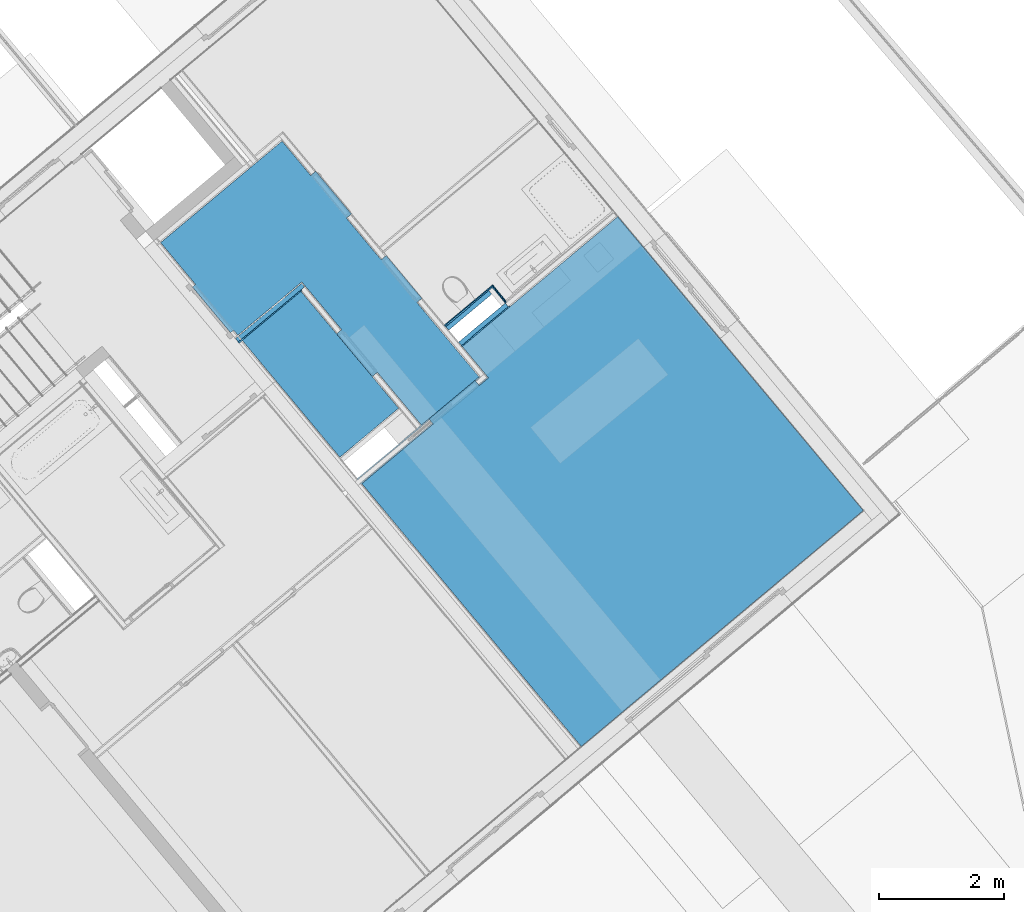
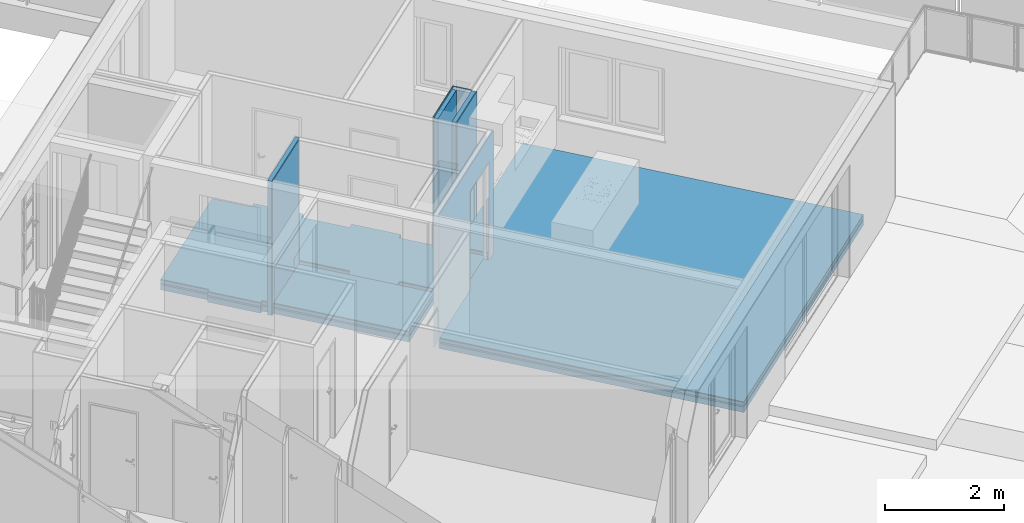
# One storey, part 41 of 67: 21 building element parts, 1 opening, 8 elements without a shape of their own, plus 2 elements that do not belong to this part.
"""IFC4 building model written with IfcOpenShell, lengths in metres."""

from ifc_helpers import new_model, entity, si_unit, converted_unit, derived_unit, direction, frame, origin_with_axes, place, context, subcontext, project, spatial, polygons, material, type_object, element, aggregate, save


model = new_model("IFC4")

# Units and contexts
model_context = context("Model", 3, precision=1e-05, world=origin_with_axes(), true_north=direction((0.0, 1.0)))
body_context = subcontext(model_context, "Body", "Model", "MODEL_VIEW")
ifc_project = project(units=[si_unit("LENGTHUNIT", "METRE"), si_unit("AREAUNIT", "SQUARE_METRE"), si_unit("VOLUMEUNIT", "CUBIC_METRE"), converted_unit("PLANEANGLEUNIT", "DEGREE", entity("IfcPlaneAngleMeasure", 0.0174532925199), si_unit("PLANEANGLEUNIT", "RADIAN"), dimensions=[0, 0, 0, 0, 0, 0, 0]), converted_unit("TIMEUNIT", "Year", entity("IfcTimeMeasure", 31556926.0), si_unit("TIMEUNIT", "SECOND"), dimensions=[0, 0, 1, 0, 0, 0, 0]), si_unit("MASSUNIT", "GRAM", prefix="KILO"), si_unit("THERMODYNAMICTEMPERATUREUNIT", "DEGREE_CELSIUS"), si_unit("LUMINOUSINTENSITYUNIT", "LUMEN"), si_unit("ENERGYUNIT", "JOULE", prefix="MEGA"), derived_unit("THERMALCONDUCTANCEUNIT", [(si_unit("POWERUNIT", "WATT"), 1), (si_unit("LENGTHUNIT", "METRE"), -1), (si_unit("THERMODYNAMICTEMPERATUREUNIT", "KELVIN"), -1)]), derived_unit("SPECIFICHEATCAPACITYUNIT", [(si_unit("ENERGYUNIT", "JOULE"), 1), (si_unit("MASSUNIT", "GRAM", prefix="KILO"), -1), (si_unit("THERMODYNAMICTEMPERATUREUNIT", "KELVIN"), -1)]), derived_unit("MASSDENSITYUNIT", [(si_unit("MASSUNIT", "GRAM", prefix="KILO"), 1), (si_unit("VOLUMEUNIT", "CUBIC_METRE"), -1)])], contexts=[model_context])

# Site, building, storey
site_placement = place(None, frame((-0.00153261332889, -0.00661245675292, 0.0), z_axis=(0.0, 0.0, 1.0), x_axis=(1.0, 0.0, 0.0)))
site = spatial("IfcSite", under=ifc_project, at=site_placement, Name="Site", CompositionType="ELEMENT")
building_placement = place(site_placement, origin_with_axes())
building = spatial("IfcBuilding", under=site, at=building_placement, Name="Building", CompositionType="ELEMENT")
storey_placement = place(building_placement, frame((0.0, 0.0, -0.22), z_axis=(0.0, 0.0, 1.0), x_axis=(1.0, 0.0, 0.0)))
storey = spatial("IfcBuildingStorey", under=building, at=storey_placement, Name="EG", CompositionType="ELEMENT", Elevation=-0.22)

# Wall, building element parts
wall_type_1 = type_object("IfcWallType", Name="LB 9,0 cm einfache Vorsatzschale  90", PredefinedType="NOTDEFINED")
wall_1_placement = place(storey_placement, frame((6.35108165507, 23.0169179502, 0.0), z_axis=(0.0, 0.0, 1.0), x_axis=(0.767365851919, 0.641209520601, 0.0)))
wall_1 = element("IfcWall", 1, at=wall_1_placement, inside=storey, type_object=wall_type_1, Name="Wand-006", PredefinedType="NOTDEFINED")
ifc_material_1 = material(Name="Mineralwolle weich")
building_element_part_1_placement = place(wall_1_placement, origin_with_axes())
building_element_part_1 = element("IfcBuildingElementPart", 2, at=building_element_part_1_placement, material=ifc_material_1, Name="Mineralwolle weich", PredefinedType="NOTDEFINED", context=body_context, shape_type="Tessellation", body=[
    polygons([(0.971380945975, 0.0, 2.76), (0.971201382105, -0.075, 2.76), (0.971201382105, -0.075, 0.0), (0.971380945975, 0.0, 0.0), (0.0, -0.075, 2.76), (0.896380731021, 0.0, 2.76), (0.0, 0.0, 2.76), (0.0, -0.075, 0.0), (0.0, 0.0, 0.0)], [[[1, 2, 3, 4]], [[5, 2, 1, 6, 7]], [[2, 5, 8, 3]], [[4, 3, 8, 9]], [[6, 1, 4, 9, 7]], [[5, 7, 9, 8]]], closed=True),
])
ifc_material_2 = material(Name="Gipskarton")
building_element_part_2_placement = place(wall_1_placement, origin_with_axes())
building_element_part_2 = element("IfcBuildingElementPart", 3, at=building_element_part_2_placement, material=ifc_material_2, Name="Gipskarton", PredefinedType="NOTDEFINED", context=body_context, shape_type="Tessellation", body=[
    polygons([(0.986201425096, -0.075, 2.76), (0.986165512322, -0.09, 2.76), (0.986165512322, -0.09, 0.0), (0.986201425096, -0.075, 0.0), (0.0, -0.09, 2.76), (0.0, -0.075, 2.76), (0.0, -0.09, 0.0), (0.0, -0.075, 0.0)], [[[1, 2, 3, 4]], [[5, 2, 1, 6]], [[2, 5, 7, 3]], [[4, 3, 7, 8]], [[6, 1, 4, 8]], [[5, 6, 8, 7]]], closed=True),
])
aggregate(wall_1, [building_element_part_1, building_element_part_2])

wall_type_2 = type_object("IfcWallType", Name="LB 10,5 cm doppelte Vorsatzschale Bad 105", PredefinedType="NOTDEFINED")
wall_2_placement = place(storey_placement, frame((6.19191495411, 23.207400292, 0.0), z_axis=(0.0, 0.0, 1.0), x_axis=(0.767365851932, 0.641209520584, 0.0)))
wall_2 = element("IfcWall", 4, at=wall_2_placement, inside=storey, type_object=wall_type_2, Name="Wand-004", PredefinedType="NOTDEFINED")
building_element_part_3_placement = place(wall_2_placement, origin_with_axes())
building_element_part_3 = element("IfcBuildingElementPart", 5, at=building_element_part_3_placement, material=ifc_material_2, Name="Gipskarton", PredefinedType="NOTDEFINED", context=body_context, shape_type="Tessellation", body=[
    polygons([(1.00222642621, 0.10487431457, 2.76), (1.00222642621, 0.09, 2.76), (1.00222642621, 0.09, 0.0), (1.00222642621, 0.10487431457, 0.0), (1.00219081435, 0.09, 2.76), (1.00219081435, 0.09, 0.0)], [[[1, 2, 3, 4]], [[5, 2, 1]], [[2, 5, 6, 3]], [[6, 4, 3]], [[5, 1, 4, 6]]], closed=True),
    polygons([(0.972226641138, 0.105, 2.76), (0.972190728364, 0.09, 2.76), (0.972190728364, 0.09, 0.0), (0.972226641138, 0.105, 0.0), (0.0, 0.09, 2.76), (0.0, 0.105, 2.76), (0.0, 0.09, 0.0), (0.0, 0.105, 0.0)], [[[1, 2, 3, 4]], [[5, 2, 1, 6]], [[2, 5, 7, 3]], [[4, 3, 7, 8]], [[6, 1, 4, 8]], [[5, 6, 8, 7]]], closed=True),
])
building_element_part_4_placement = place(wall_2_placement, origin_with_axes())
building_element_part_4 = element("IfcBuildingElementPart", 6, at=building_element_part_4_placement, material=ifc_material_2, Name="Gipskarton", PredefinedType="NOTDEFINED", context=body_context, shape_type="Tessellation", body=[
    polygons([(1.00222642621, 0.09, 2.76), (1.00222642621, 0.075, 2.76), (1.00222642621, 0.075, 0.0), (1.00222642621, 0.09, 0.0), (1.00215490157, 0.075, 2.76), (1.00219081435, 0.09, 2.76), (1.00215490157, 0.075, 0.0), (1.00219081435, 0.09, 0.0)], [[[1, 2, 3, 4]], [[5, 2, 1, 6]], [[2, 5, 7, 3]], [[8, 4, 3, 7]], [[6, 1, 4, 8]], [[5, 6, 8, 7]]], closed=True),
    polygons([(0.972190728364, 0.09, 2.76), (0.97215481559, 0.075, 2.76), (0.97215481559, 0.075, 0.0), (0.972190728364, 0.09, 0.0), (0.0, 0.075, 2.76), (0.0, 0.09, 2.76), (0.0, 0.075, 0.0), (0.0, 0.09, 0.0)], [[[1, 2, 3, 4]], [[5, 2, 1, 6]], [[2, 5, 7, 3]], [[4, 3, 7, 8]], [[6, 1, 4, 8]], [[5, 6, 8, 7]]], closed=True),
])
building_element_part_5_placement = place(wall_2_placement, origin_with_axes())
building_element_part_5 = element("IfcBuildingElementPart", 7, at=building_element_part_5_placement, material=ifc_material_1, Name="Mineralwolle weich", PredefinedType="NOTDEFINED", context=body_context, shape_type="Tessellation", body=[
    polygons([(1.00197533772, 0.0, 0.22), (1.00222642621, 0.0, 0.22), (1.00222642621, 0.0, 2.76), (1.0019753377, 0.0, 2.76), (1.00222642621, 0.075, 0.22), (1.00215490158, 0.075, 0.22), (1.00222642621, 0.075, 2.76), (1.00215490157, 0.075, 2.76)], [[[1, 2, 3, 4]], [[5, 2, 1, 6]], [[2, 5, 7, 3]], [[4, 3, 7, 8]], [[6, 1, 4, 8]], [[5, 6, 8, 7]]], closed=True),
    polygons([(0.897154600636, 0.075, 2.76), (0.89697503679, 0.0, 2.76), (0.896975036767, 0.0, 0.0), (0.897154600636, 0.075, 0.0), (0.0, 0.0, 2.76), (0.0, 0.075, 2.76), (0.0, 0.0, 0.0), (0.0, 0.075, 0.0)], [[[1, 2, 3, 4]], [[5, 2, 1, 6]], [[2, 5, 7, 3]], [[4, 3, 7, 8]], [[6, 1, 4, 8]], [[5, 6, 8, 7]]], closed=True),
])
aggregate(wall_2, [building_element_part_3, building_element_part_4, building_element_part_5])

# Wall, opening, building element parts
wall_type_3 = type_object("IfcWallType", Name="IW LB 01 Leichtbautrennwand einfach 10,5 cm 105", PredefinedType="NOTDEFINED")
wall_3_placement = place(storey_placement, frame((4.75634479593, 20.7201278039, 0.0), z_axis=(0.0, 0.0, 1.0), x_axis=(0.767768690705, 0.640727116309, 0.0)))
wall_3 = element("IfcWall", 8, at=wall_3_placement, inside=storey, type_object=wall_type_3, Name="Wand-012", PredefinedType="NOTDEFINED")
opening_placement = place(wall_3_placement, frame((2.0266659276, 0.0, 0.22), z_axis=(0.0, 0.0, 1.0), x_axis=(1.0, 0.0, 0.0)))
element("IfcOpeningElement", 9, at=opening_placement, cuts=wall_3, Name="Tür-001", context=body_context, identifier="Reference", shape_type="Tessellation", body=[
    polygons([(-0.48, -1.32747549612, -0.22), (-0.48, -1.32747549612, 2.03), (-0.48, 1.43247549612, 2.03), (-0.48, 1.43247549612, -0.22), (-0.48, 0.09, 2.0), (-0.48, 0.015, 2.0), (-0.48, 0.015, 0.0), (-0.48, 0.09, 0.0), (0.48, -1.32747549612, -0.22), (0.48, -1.32747549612, 2.03), (0.48, 1.43247549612, 2.03), (0.48, 1.43247549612, -0.22), (-1.44, 0.09, 2.0), (-1.44, 0.015, 2.0), (-1.44, 0.015, 0.0), (-1.44, 0.09, 0.0)], [[[1, 2, 3, 4], [5, 6, 7, 8]], [[1, 9, 10, 2]], [[2, 10, 11, 3]], [[11, 12, 4, 3]], [[9, 1, 4, 12]], [[6, 5, 13, 14]], [[7, 6, 14, 15]], [[8, 7, 15, 16]], [[5, 8, 16, 13]], [[10, 9, 12, 11]], [[14, 13, 16, 15]]], closed=True),
])
building_element_part_6_placement = place(wall_3_placement, origin_with_axes())
building_element_part_6 = element("IfcBuildingElementPart", 10, at=building_element_part_6_placement, material=ifc_material_2, Name="Gipskarton", PredefinedType="NOTDEFINED", context=body_context, shape_type="Tessellation", body=[
    polygons([(1.5466659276, 0.09, 0.22), (1.5466659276, 0.09, 2.25), (2.5066659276, 0.09, 2.25), (2.5066659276, 0.09, 0.22), (2.50666590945, 0.09, 0.0), (2.6064142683, 0.09, 0.0), (2.6064142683, 0.09, 2.76), (0.0499861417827, 0.09, 2.76), (0.0499861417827, 0.09, 0.0), (1.5466659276, 0.09, 0.0), (1.5466659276, 0.104999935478, 0.22), (1.5466659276, 0.105, 2.25), (2.5066659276, 0.105, 2.25), (2.5066659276, 0.104999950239, 0.22), (2.5066659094, 0.104999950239, 0.0), (2.60640484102, 0.105, 0.0), (2.60640484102, 0.105, 2.76), (1.28733376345, 0.105, 2.76), (0.0649838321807, 0.105, 2.76), (0.0499838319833, 0.105, 2.76), (0.0499838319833, 0.105, 0.0), (1.5466659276, 0.104999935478, 0.0)], [[[1, 2, 3, 4, 5, 6, 7, 8, 9, 10]], [[2, 1, 11, 12]], [[3, 2, 12, 13]], [[4, 3, 13, 14]], [[4, 14, 15, 5]], [[15, 16, 6, 5]], [[7, 6, 16, 17]], [[8, 7, 17, 18, 19, 20]], [[20, 21, 9, 8]], [[10, 9, 21, 22]], [[11, 1, 10, 22]], [[12, 11, 22, 21, 20, 19, 18, 17, 16, 15, 14, 13]]], closed=True),
])
building_element_part_7_placement = place(wall_3_placement, origin_with_axes())
building_element_part_7 = element("IfcBuildingElementPart", 11, at=building_element_part_7_placement, material=ifc_material_2, Name="Gipskarton", PredefinedType="NOTDEFINED", context=body_context, shape_type="Tessellation", body=[
    polygons([(1.5466659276, 0.0, 0.22), (1.5466659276, 0.0, 2.25), (2.5066659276, 0.0, 2.25), (2.5066659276, 0.0, 0.22), (2.50666590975, 0.0, 0.0), (2.6964708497, 0.0, 0.0), (2.6964708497, 0.0, 2.76), (0.050000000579, 0.0, 2.76), (0.050000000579, 0.0, 0.0), (1.5466659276, 0.0, 0.0), (1.5466659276, 0.015, 0.22), (1.5466659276, 0.015, 2.25), (2.5066659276, 0.015, 2.25), (2.5066659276, 0.015, 0.22), (2.5066659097, 0.015, 0.0), (2.69646142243, 0.015, 0.0), (2.69646142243, 0.015, 2.76), (0.0499976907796, 0.015, 2.76), (0.0499976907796, 0.015, 0.0), (1.5466659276, 0.015, 0.0)], [[[1, 2, 3, 4, 5, 6, 7, 8, 9, 10]], [[2, 1, 11, 12]], [[3, 2, 12, 13]], [[4, 3, 13, 14]], [[4, 14, 15, 5]], [[15, 16, 6, 5]], [[7, 6, 16, 17]], [[17, 18, 8, 7]], [[18, 19, 9, 8]], [[10, 9, 19, 20]], [[11, 1, 10, 20]], [[12, 11, 20, 19, 18, 17, 16, 15, 14, 13]]], closed=True),
])
aggregate(wall_3, [building_element_part_6, building_element_part_7])

# Wall, building element parts
wall_4_placement = place(storey_placement, frame((2.84969161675, 23.0041117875, 0.0), z_axis=(0.0, 0.0, 1.0), x_axis=(0.767365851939, 0.641209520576, 0.0)))
wall_4 = element("IfcWall", 12, at=wall_4_placement, inside=storey, type_object=wall_type_3, Name="Wand-012", PredefinedType="NOTDEFINED")
building_element_part_8_placement = place(wall_4_placement, origin_with_axes())
building_element_part_8 = element("IfcBuildingElementPart", 13, at=building_element_part_8_placement, material=ifc_material_1, Name="Mineralwolle weich", PredefinedType="NOTDEFINED", context=body_context, shape_type="Tessellation", body=[
    polygons([(1.3759877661, 0.09, 2.76), (1.3759877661, 0.015, 2.76), (1.3759877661, 0.015, 0.0), (1.3759877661, 0.09, 0.0), (0.0, 0.015, 2.76), (0.0, 0.09, 2.76), (0.0, 0.015, 0.0), (0.0, 0.09, 0.0)], [[[1, 2, 3, 4]], [[5, 2, 1, 6]], [[2, 5, 7, 3]], [[4, 3, 7, 8]], [[6, 1, 4, 8]], [[5, 6, 8, 7]]], closed=True),
])
building_element_part_9_placement = place(wall_4_placement, origin_with_axes())
building_element_part_9 = element("IfcBuildingElementPart", 14, at=building_element_part_9_placement, material=ifc_material_2, Name="Gipskarton", PredefinedType="NOTDEFINED", context=body_context, shape_type="Tessellation", body=[
    polygons([(1.3009877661, 0.015, 2.76), (1.3009877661, 0.0, 2.76), (1.3009877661, 0.0, 0.0), (1.3009877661, 0.015, 0.0), (0.0, 0.0, 2.76), (0.0, 0.015, 2.76), (0.0, 0.0, 0.0), (0.0, 0.015, 0.0)], [[[1, 2, 3, 4]], [[5, 2, 1, 6]], [[2, 5, 7, 3]], [[4, 3, 7, 8]], [[6, 1, 4, 8]], [[5, 6, 8, 7]]], closed=True),
])
aggregate(wall_4, [building_element_part_8, building_element_part_9])

wall_5_placement = place(storey_placement, frame((6.81308887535, 23.8632838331, 0.0), z_axis=(0.0, 0.0, 1.0), x_axis=(0.639370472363, -0.768898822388, 0.0)))
wall_5 = element("IfcWall", 15, at=wall_5_placement, inside=storey, type_object=wall_type_2, Name="Wand-004", PredefinedType="NOTDEFINED")
building_element_part_10_placement = place(wall_5_placement, origin_with_axes())
building_element_part_10 = element("IfcBuildingElementPart", 16, at=building_element_part_10_placement, material=ifc_material_2, Name="Gipskarton", PredefinedType="NOTDEFINED", context=body_context, shape_type="Tessellation", body=[
    polygons([(0.0, 0.105, 2.76), (0.337978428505, 0.105, 2.76), (0.337978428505, 0.105, 0.0), (0.0, 0.105, 0.0), (0.0, 0.09, 2.76), (0.338014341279, 0.09, 2.76), (0.338014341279, 0.09, 0.0), (0.0, 0.09, 0.0)], [[[1, 2, 3, 4]], [[2, 1, 5, 6]], [[2, 6, 7, 3]], [[3, 7, 8, 4]], [[5, 1, 4, 8]], [[5, 8, 7, 6]]], closed=True),
])
building_element_part_11_placement = place(wall_5_placement, origin_with_axes())
building_element_part_11 = element("IfcBuildingElementPart", 17, at=building_element_part_11_placement, material=ifc_material_2, Name="Gipskarton", PredefinedType="NOTDEFINED", context=body_context, shape_type="Tessellation", body=[
    polygons([(0.0, 0.09, 2.76), (0.35301438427, 0.09, 2.76), (0.35301438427, 0.09, 0.0), (0.0, 0.09, 0.0), (0.0, 0.075, 2.76), (0.353050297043, 0.075, 2.76), (0.353050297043, 0.075, 0.0), (0.0, 0.075, 0.0)], [[[1, 2, 3, 4]], [[2, 1, 5, 6]], [[2, 6, 7, 3]], [[3, 7, 8, 4]], [[5, 1, 4, 8]], [[5, 8, 7, 6]]], closed=True),
])
aggregate(wall_5, [building_element_part_10, building_element_part_11])

# Covering, building element parts
covering_type_1 = type_object("IfcCoveringType", Name="DE 01 Decke Wohnung/Wohnung Parkett 220", PredefinedType="NOTDEFINED")
covering_1_placement = place(storey_placement, frame((4.8062497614, 20.7617750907, 0.22), z_axis=(0.0, 0.0, 1.0), x_axis=(1.0, 0.0, 0.0)))
covering_1 = element("IfcCovering", 18, at=covering_1_placement, inside=storey, type_object=covering_type_1, Name="Decke-005", PredefinedType="NOTDEFINED")
ifc_material_3 = material(Name="Parkett")
building_element_part_12_placement = place(covering_1_placement, origin_with_axes())
building_element_part_12 = element("IfcBuildingElementPart", 19, at=building_element_part_12_placement, material=ifc_material_3, Name="Parkett", PredefinedType="NOTDEFINED", context=body_context, shape_type="Tessellation", body=[
    polygons([(0.0, 0.0, -0.015), (3.5013638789, -4.19429140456, -0.015), (3.5013638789, -4.19429140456, 0.0), (0.0, 0.0, 0.0), (1.13757667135, 0.94934347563, -0.015), (1.07030040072, 1.02995917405, -0.015), (1.80735832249, 1.64505720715, -0.015), (1.87463459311, 1.56444150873, -0.015), (2.02036092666, 1.68605464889, -0.015), (1.60254077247, 2.18607990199, -0.015), (4.08241896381, 4.25826166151, -0.015), (8.00008249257, -0.43019226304, -0.015), (8.00008249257, -0.43019226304, 0.0), (1.13757667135, 0.94934347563, 0.0), (4.08241896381, 4.25826166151, 0.0), (1.60254077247, 2.18607990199, 0.0), (2.02036092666, 1.68605464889, 0.0), (1.87463459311, 1.56444150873, 0.0), (1.80735832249, 1.64505720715, 0.0), (1.07030040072, 1.02995917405, 0.0)], [[[1, 2, 3, 4]], [[2, 1, 5, 6, 7, 8, 9, 10, 11, 12]], [[2, 12, 13, 3]], [[14, 4, 3, 13, 15, 16, 17, 18, 19, 20]], [[5, 1, 4, 14]], [[6, 5, 14, 20]], [[7, 6, 20, 19]], [[8, 7, 19, 18]], [[9, 8, 18, 17]], [[10, 9, 17, 16]], [[11, 10, 16, 15]], [[12, 11, 15, 13]]], closed=True),
])
ifc_material_4 = material(Name="Estrich")
building_element_part_13_placement = place(covering_1_placement, origin_with_axes())
building_element_part_13 = element("IfcBuildingElementPart", 20, at=building_element_part_13_placement, material=ifc_material_4, Name="Estrich", PredefinedType="NOTDEFINED", context=body_context, shape_type="Tessellation", body=[
    polygons([(0.0, 0.0, -0.08), (3.5013638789, -4.19429140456, -0.08), (3.5013638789, -4.19429140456, -0.015), (0.0, 0.0, -0.015), (1.13757667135, 0.94934347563, -0.08), (1.07030040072, 1.02995917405, -0.08), (1.80735832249, 1.64505720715, -0.08), (1.87463459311, 1.56444150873, -0.08), (2.02036092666, 1.68605464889, -0.08), (1.60254077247, 2.18607990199, -0.08), (4.08241896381, 4.25826166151, -0.08), (8.00008249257, -0.43019226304, -0.08), (8.00008249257, -0.43019226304, -0.015), (1.13757667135, 0.94934347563, -0.015), (4.08241896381, 4.25826166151, -0.015), (1.60254077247, 2.18607990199, -0.015), (2.02036092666, 1.68605464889, -0.015), (1.87463459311, 1.56444150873, -0.015), (1.80735832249, 1.64505720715, -0.015), (1.07030040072, 1.02995917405, -0.015)], [[[1, 2, 3, 4]], [[2, 1, 5, 6, 7, 8, 9, 10, 11, 12]], [[2, 12, 13, 3]], [[14, 4, 3, 13, 15, 16, 17, 18, 19, 20]], [[5, 1, 4, 14]], [[6, 5, 14, 20]], [[7, 6, 20, 19]], [[8, 7, 19, 18]], [[9, 8, 18, 17]], [[10, 9, 17, 16]], [[11, 10, 16, 15]], [[12, 11, 15, 13]]], closed=True),
])
ifc_material_5 = material(Name="Trittschalldämmung")
building_element_part_14_placement = place(covering_1_placement, origin_with_axes())
building_element_part_14 = element("IfcBuildingElementPart", 21, at=building_element_part_14_placement, material=ifc_material_5, Name="Trittschalldämmung", PredefinedType="NOTDEFINED", context=body_context, shape_type="Tessellation", body=[
    polygons([(0.0, 0.0, -0.11), (3.5013638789, -4.19429140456, -0.11), (3.5013638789, -4.19429140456, -0.08), (0.0, 0.0, -0.08), (1.13757667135, 0.94934347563, -0.11), (1.07030040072, 1.02995917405, -0.11), (1.80735832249, 1.64505720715, -0.11), (1.87463459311, 1.56444150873, -0.11), (2.02036092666, 1.68605464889, -0.11), (1.60254077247, 2.18607990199, -0.11), (4.08241896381, 4.25826166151, -0.11), (8.00008249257, -0.43019226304, -0.11), (8.00008249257, -0.43019226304, -0.08), (1.13757667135, 0.94934347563, -0.08), (4.08241896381, 4.25826166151, -0.08), (1.60254077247, 2.18607990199, -0.08), (2.02036092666, 1.68605464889, -0.08), (1.87463459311, 1.56444150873, -0.08), (1.80735832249, 1.64505720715, -0.08), (1.07030040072, 1.02995917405, -0.08)], [[[1, 2, 3, 4]], [[2, 1, 5, 6, 7, 8, 9, 10, 11, 12]], [[2, 12, 13, 3]], [[14, 4, 3, 13, 15, 16, 17, 18, 19, 20]], [[5, 1, 4, 14]], [[6, 5, 14, 20]], [[7, 6, 20, 19]], [[8, 7, 19, 18]], [[9, 8, 18, 17]], [[10, 9, 17, 16]], [[11, 10, 16, 15]], [[12, 11, 15, 13]]], closed=True),
])
ifc_material_6 = material(Name="Schüttung")
building_element_part_15_placement = place(covering_1_placement, origin_with_axes())
building_element_part_15 = element("IfcBuildingElementPart", 22, at=building_element_part_15_placement, material=ifc_material_6, Name="Schüttung", PredefinedType="NOTDEFINED", context=body_context, shape_type="Tessellation", body=[
    polygons([(0.0, 0.0, -0.11), (0.0, 0.0, -0.22), (3.5013638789, -4.19429140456, -0.22), (3.5013638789, -4.19429140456, -0.11), (1.13757667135, 0.94934347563, -0.11), (1.13757667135, 0.94934347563, -0.22), (1.07030040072, 1.02995917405, -0.22), (1.80735832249, 1.64505720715, -0.22), (1.87463459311, 1.56444150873, -0.22), (2.02036092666, 1.68605464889, -0.22), (1.60254077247, 2.18607990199, -0.22), (4.08241896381, 4.25826166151, -0.22), (8.00008249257, -0.43019226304, -0.22), (8.00008249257, -0.43019226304, -0.11), (4.08241896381, 4.25826166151, -0.11), (1.60254077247, 2.18607990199, -0.11), (2.02036092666, 1.68605464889, -0.11), (1.87463459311, 1.56444150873, -0.11), (1.80735832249, 1.64505720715, -0.11), (1.07030040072, 1.02995917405, -0.11)], [[[1, 2, 3, 4]], [[5, 6, 2, 1]], [[3, 2, 6, 7, 8, 9, 10, 11, 12, 13]], [[4, 3, 13, 14]], [[5, 1, 4, 14, 15, 16, 17, 18, 19, 20]], [[20, 7, 6, 5]], [[19, 8, 7, 20]], [[18, 9, 8, 19]], [[17, 10, 9, 18]], [[16, 11, 10, 17]], [[15, 12, 11, 16]], [[14, 13, 12, 15]]], closed=True),
])
aggregate(covering_1, [building_element_part_12, building_element_part_13, building_element_part_14, building_element_part_15])

covering_type_2 = type_object("IfcCoveringType", Name="DE 01 Decke Wohnung/Wohnung Fließen 220", PredefinedType="NOTDEFINED")
covering_2_placement = place(storey_placement, frame((3.53540854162, 26.2228144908, 0.22), z_axis=(0.0, 0.0, 1.0), x_axis=(1.0, 0.0, 0.0)))
covering_2 = element("IfcCovering", 23, at=covering_2_placement, inside=storey, type_object=covering_type_2, Name="Decke-001", PredefinedType="NOTDEFINED")
ifc_material_7 = material(Name="Fliesen")
building_element_part_16_placement = place(covering_2_placement, origin_with_axes())
building_element_part_16 = element("IfcBuildingElementPart", 24, at=building_element_part_16_placement, material=ifc_material_7, Name="Fliesen", PredefinedType="NOTDEFINED", context=body_context, shape_type="Tessellation", body=[
    polygons([(0.0, 0.0, -0.015), (-1.93687654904, -1.61850734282, -0.015), (-1.93687654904, -1.61850734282, 0.0), (0.0, 0.0, 0.0), (0.456545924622, -0.546370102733, -0.015), (0.53711933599, -0.479043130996, -0.015), (1.10779579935, -1.16199873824, -0.015), (1.02722238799, -1.22932570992, -0.015), (1.58063062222, -1.89161567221, -0.015), (1.66120403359, -1.8242886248, -0.015), (2.23188049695, -2.50724423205, -0.015), (2.15130708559, -2.57457127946, -0.015), (3.1432594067, -3.76168765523, -0.015), (2.22264850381, -4.52996639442, -0.015), (1.5196247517, -3.68862254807, -0.015), (1.43905209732, -3.75594898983, -0.015), (0.86837563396, -3.07299338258, -0.015), (0.948949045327, -3.00566633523, -0.015), (0.314352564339, -2.24621466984, -0.015), (-0.703126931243, -3.09641874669, -0.015), (-0.771194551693, -3.01488031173, -0.015), (-0.821093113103, -3.05653529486, -0.015), (-1.4298961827, -2.32724879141, -0.015), (-1.37999762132, -2.28559380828, -0.015), (-1.37999762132, -2.28559380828, 0.0), (0.456545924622, -0.546370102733, 0.0), (-1.4298961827, -2.32724879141, 0.0), (-0.821093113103, -3.05653529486, 0.0), (-0.771194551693, -3.01488031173, 0.0), (-0.703126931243, -3.09641874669, 0.0), (0.314352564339, -2.24621466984, 0.0), (0.948949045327, -3.00566633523, 0.0), (0.86837563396, -3.07299338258, 0.0), (1.43905209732, -3.75594898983, 0.0), (1.5196247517, -3.68862254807, 0.0), (2.22264850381, -4.52996639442, 0.0), (3.1432594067, -3.76168765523, 0.0), (2.15130708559, -2.57457127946, 0.0), (2.23188049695, -2.50724423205, 0.0), (1.66120403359, -1.8242886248, 0.0), (1.58063062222, -1.89161567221, 0.0), (1.02722238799, -1.22932570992, 0.0), (1.10779579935, -1.16199873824, 0.0), (0.53711933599, -0.479043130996, 0.0)], [[[1, 2, 3, 4]], [[2, 1, 5, 6, 7, 8, 9, 10, 11, 12, 13, 14, 15, 16, 17, 18, 19, 20, 21, 22, 23, 24]], [[2, 24, 25, 3]], [[26, 4, 3, 25, 27, 28, 29, 30, 31, 32, 33, 34, 35, 36, 37, 38, 39, 40, 41, 42, 43, 44]], [[5, 1, 4, 26]], [[6, 5, 26, 44]], [[7, 6, 44, 43]], [[8, 7, 43, 42]], [[9, 8, 42, 41]], [[10, 9, 41, 40]], [[11, 10, 40, 39]], [[12, 11, 39, 38]], [[13, 12, 38, 37]], [[14, 13, 37, 36]], [[15, 14, 36, 35]], [[16, 15, 35, 34]], [[17, 16, 34, 33]], [[18, 17, 33, 32]], [[19, 18, 32, 31]], [[20, 19, 31, 30]], [[21, 20, 30, 29]], [[22, 21, 29, 28]], [[23, 22, 28, 27]], [[24, 23, 27, 25]]], closed=True),
])
building_element_part_17_placement = place(covering_2_placement, origin_with_axes())
building_element_part_17 = element("IfcBuildingElementPart", 25, at=building_element_part_17_placement, material=ifc_material_4, Name="Estrich", PredefinedType="NOTDEFINED", context=body_context, shape_type="Tessellation", body=[
    polygons([(0.0, 0.0, -0.08), (-1.93687654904, -1.61850734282, -0.08), (-1.93687654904, -1.61850734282, -0.015), (0.0, 0.0, -0.015), (0.456545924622, -0.546370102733, -0.08), (0.53711933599, -0.479043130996, -0.08), (1.10779579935, -1.16199873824, -0.08), (1.02722238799, -1.22932570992, -0.08), (1.58063062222, -1.89161567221, -0.08), (1.66120403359, -1.8242886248, -0.08), (2.23188049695, -2.50724423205, -0.08), (2.15130708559, -2.57457127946, -0.08), (3.1432594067, -3.76168765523, -0.08), (2.22264850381, -4.52996639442, -0.08), (1.5196247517, -3.68862254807, -0.08), (1.43905209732, -3.75594898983, -0.08), (0.86837563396, -3.07299338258, -0.08), (0.948949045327, -3.00566633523, -0.08), (0.314352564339, -2.24621466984, -0.08), (-0.703126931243, -3.09641874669, -0.08), (-0.771194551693, -3.01488031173, -0.08), (-0.821093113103, -3.05653529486, -0.08), (-1.4298961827, -2.32724879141, -0.08), (-1.37999762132, -2.28559380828, -0.08), (-1.37999762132, -2.28559380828, -0.015), (0.456545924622, -0.546370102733, -0.015), (-1.4298961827, -2.32724879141, -0.015), (-0.821093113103, -3.05653529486, -0.015), (-0.771194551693, -3.01488031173, -0.015), (-0.703126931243, -3.09641874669, -0.015), (0.314352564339, -2.24621466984, -0.015), (0.948949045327, -3.00566633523, -0.015), (0.86837563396, -3.07299338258, -0.015), (1.43905209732, -3.75594898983, -0.015), (1.5196247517, -3.68862254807, -0.015), (2.22264850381, -4.52996639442, -0.015), (3.1432594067, -3.76168765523, -0.015), (2.15130708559, -2.57457127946, -0.015), (2.23188049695, -2.50724423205, -0.015), (1.66120403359, -1.8242886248, -0.015), (1.58063062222, -1.89161567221, -0.015), (1.02722238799, -1.22932570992, -0.015), (1.10779579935, -1.16199873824, -0.015), (0.53711933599, -0.479043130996, -0.015)], [[[1, 2, 3, 4]], [[2, 1, 5, 6, 7, 8, 9, 10, 11, 12, 13, 14, 15, 16, 17, 18, 19, 20, 21, 22, 23, 24]], [[2, 24, 25, 3]], [[26, 4, 3, 25, 27, 28, 29, 30, 31, 32, 33, 34, 35, 36, 37, 38, 39, 40, 41, 42, 43, 44]], [[5, 1, 4, 26]], [[6, 5, 26, 44]], [[7, 6, 44, 43]], [[8, 7, 43, 42]], [[9, 8, 42, 41]], [[10, 9, 41, 40]], [[11, 10, 40, 39]], [[12, 11, 39, 38]], [[13, 12, 38, 37]], [[14, 13, 37, 36]], [[15, 14, 36, 35]], [[16, 15, 35, 34]], [[17, 16, 34, 33]], [[18, 17, 33, 32]], [[19, 18, 32, 31]], [[20, 19, 31, 30]], [[21, 20, 30, 29]], [[22, 21, 29, 28]], [[23, 22, 28, 27]], [[24, 23, 27, 25]]], closed=True),
])
building_element_part_18_placement = place(covering_2_placement, origin_with_axes())
building_element_part_18 = element("IfcBuildingElementPart", 26, at=building_element_part_18_placement, material=ifc_material_5, Name="Trittschalldämmung", PredefinedType="NOTDEFINED", context=body_context, shape_type="Tessellation", body=[
    polygons([(0.0, 0.0, -0.11), (-1.93687654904, -1.61850734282, -0.11), (-1.93687654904, -1.61850734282, -0.08), (0.0, 0.0, -0.08), (0.456545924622, -0.546370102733, -0.11), (0.53711933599, -0.479043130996, -0.11), (1.10779579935, -1.16199873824, -0.11), (1.02722238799, -1.22932570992, -0.11), (1.58063062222, -1.89161567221, -0.11), (1.66120403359, -1.8242886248, -0.11), (2.23188049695, -2.50724423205, -0.11), (2.15130708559, -2.57457127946, -0.11), (3.1432594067, -3.76168765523, -0.11), (2.22264850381, -4.52996639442, -0.11), (1.5196247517, -3.68862254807, -0.11), (1.43905209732, -3.75594898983, -0.11), (0.86837563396, -3.07299338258, -0.11), (0.948949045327, -3.00566633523, -0.11), (0.314352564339, -2.24621466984, -0.11), (-0.703126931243, -3.09641874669, -0.11), (-0.771194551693, -3.01488031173, -0.11), (-0.821093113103, -3.05653529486, -0.11), (-1.4298961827, -2.32724879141, -0.11), (-1.37999762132, -2.28559380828, -0.11), (-1.37999762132, -2.28559380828, -0.08), (0.456545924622, -0.546370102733, -0.08), (-1.4298961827, -2.32724879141, -0.08), (-0.821093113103, -3.05653529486, -0.08), (-0.771194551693, -3.01488031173, -0.08), (-0.703126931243, -3.09641874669, -0.08), (0.314352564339, -2.24621466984, -0.08), (0.948949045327, -3.00566633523, -0.08), (0.86837563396, -3.07299338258, -0.08), (1.43905209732, -3.75594898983, -0.08), (1.5196247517, -3.68862254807, -0.08), (2.22264850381, -4.52996639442, -0.08), (3.1432594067, -3.76168765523, -0.08), (2.15130708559, -2.57457127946, -0.08), (2.23188049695, -2.50724423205, -0.08), (1.66120403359, -1.8242886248, -0.08), (1.58063062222, -1.89161567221, -0.08), (1.02722238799, -1.22932570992, -0.08), (1.10779579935, -1.16199873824, -0.08), (0.53711933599, -0.479043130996, -0.08)], [[[1, 2, 3, 4]], [[2, 1, 5, 6, 7, 8, 9, 10, 11, 12, 13, 14, 15, 16, 17, 18, 19, 20, 21, 22, 23, 24]], [[2, 24, 25, 3]], [[26, 4, 3, 25, 27, 28, 29, 30, 31, 32, 33, 34, 35, 36, 37, 38, 39, 40, 41, 42, 43, 44]], [[5, 1, 4, 26]], [[6, 5, 26, 44]], [[7, 6, 44, 43]], [[8, 7, 43, 42]], [[9, 8, 42, 41]], [[10, 9, 41, 40]], [[11, 10, 40, 39]], [[12, 11, 39, 38]], [[13, 12, 38, 37]], [[14, 13, 37, 36]], [[15, 14, 36, 35]], [[16, 15, 35, 34]], [[17, 16, 34, 33]], [[18, 17, 33, 32]], [[19, 18, 32, 31]], [[20, 19, 31, 30]], [[21, 20, 30, 29]], [[22, 21, 29, 28]], [[23, 22, 28, 27]], [[24, 23, 27, 25]]], closed=True),
])
building_element_part_19_placement = place(covering_2_placement, origin_with_axes())
building_element_part_19 = element("IfcBuildingElementPart", 27, at=building_element_part_19_placement, material=ifc_material_6, Name="Schüttung", PredefinedType="NOTDEFINED", context=body_context, shape_type="Tessellation", body=[
    polygons([(0.0, 0.0, -0.11), (0.0, 0.0, -0.22), (-1.93687654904, -1.61850734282, -0.22), (-1.93687654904, -1.61850734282, -0.11), (0.456545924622, -0.546370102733, -0.11), (0.456545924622, -0.546370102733, -0.22), (0.53711933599, -0.479043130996, -0.22), (1.10779579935, -1.16199873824, -0.22), (1.02722238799, -1.22932570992, -0.22), (1.58063062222, -1.89161567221, -0.22), (1.66120403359, -1.8242886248, -0.22), (2.23188049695, -2.50724423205, -0.22), (2.15130708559, -2.57457127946, -0.22), (3.1432594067, -3.76168765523, -0.22), (2.22264850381, -4.52996639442, -0.22), (1.5196247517, -3.68862254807, -0.22), (1.43905209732, -3.75594898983, -0.22), (0.86837563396, -3.07299338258, -0.22), (0.948949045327, -3.00566633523, -0.22), (0.314352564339, -2.24621466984, -0.22), (-0.703126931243, -3.09641874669, -0.22), (-0.771194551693, -3.01488031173, -0.22), (-0.821093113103, -3.05653529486, -0.22), (-1.4298961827, -2.32724879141, -0.22), (-1.37999762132, -2.28559380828, -0.22), (-1.37999762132, -2.28559380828, -0.11), (-1.4298961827, -2.32724879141, -0.11), (-0.821093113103, -3.05653529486, -0.11), (-0.771194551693, -3.01488031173, -0.11), (-0.703126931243, -3.09641874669, -0.11), (0.314352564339, -2.24621466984, -0.11), (0.948949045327, -3.00566633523, -0.11), (0.86837563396, -3.07299338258, -0.11), (1.43905209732, -3.75594898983, -0.11), (1.5196247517, -3.68862254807, -0.11), (2.22264850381, -4.52996639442, -0.11), (3.1432594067, -3.76168765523, -0.11), (2.15130708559, -2.57457127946, -0.11), (2.23188049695, -2.50724423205, -0.11), (1.66120403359, -1.8242886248, -0.11), (1.58063062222, -1.89161567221, -0.11), (1.02722238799, -1.22932570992, -0.11), (1.10779579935, -1.16199873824, -0.11), (0.53711933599, -0.479043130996, -0.11)], [[[1, 2, 3, 4]], [[5, 6, 2, 1]], [[3, 2, 6, 7, 8, 9, 10, 11, 12, 13, 14, 15, 16, 17, 18, 19, 20, 21, 22, 23, 24, 25]], [[4, 3, 25, 26]], [[5, 1, 4, 26, 27, 28, 29, 30, 31, 32, 33, 34, 35, 36, 37, 38, 39, 40, 41, 42, 43, 44]], [[44, 7, 6, 5]], [[43, 8, 7, 44]], [[42, 9, 8, 43]], [[41, 10, 9, 42]], [[40, 11, 10, 41]], [[39, 12, 11, 40]], [[38, 13, 12, 39]], [[37, 14, 13, 38]], [[36, 15, 14, 37]], [[35, 16, 15, 36]], [[34, 17, 16, 35]], [[33, 18, 17, 34]], [[32, 19, 18, 33]], [[31, 20, 19, 32]], [[30, 21, 20, 31]], [[29, 22, 21, 30]], [[28, 23, 22, 29]], [[27, 24, 23, 28]], [[26, 25, 24, 27]]], closed=True),
])
aggregate(covering_2, [building_element_part_16, building_element_part_17, building_element_part_18, building_element_part_19])

covering_3_placement = place(storey_placement, frame((2.89957040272, 23.0457904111, 0.22), z_axis=(0.0, 0.0, 1.0), x_axis=(1.0, 0.0, 0.0)))
covering_3 = element("IfcCovering", 28, at=covering_3_placement, inside=storey, type_object=covering_type_2, Name="Decke-001", PredefinedType="NOTDEFINED")
building_element_part_20_placement = place(covering_3_placement, origin_with_axes())
building_element_part_20 = element("IfcBuildingElementPart", 29, at=building_element_part_20_placement, material=ifc_material_7, Name="Fliesen", PredefinedType="NOTDEFINED", context=body_context, shape_type="Tessellation", body=[
    polygons([(1.55754311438, -1.86578427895, -0.015), (1.55754311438, -1.86578427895, 0.0), (0.0, 0.0, 0.0), (0.0, 0.0, -0.015), (2.49537238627, -1.0821358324, -0.015), (2.49537238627, -1.0821358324, 0.0), (0.936944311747, 0.782908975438, 0.0), (0.936944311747, 0.782908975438, -0.015)], [[[1, 2, 3, 4]], [[5, 6, 2, 1]], [[3, 2, 6, 7]], [[4, 3, 7, 8]], [[4, 8, 5, 1]], [[8, 7, 6, 5]]], closed=True),
])
building_element_part_21_placement = place(covering_3_placement, origin_with_axes())
building_element_part_21 = element("IfcBuildingElementPart", 30, at=building_element_part_21_placement, material=ifc_material_4, Name="Estrich", PredefinedType="NOTDEFINED", context=body_context, shape_type="Tessellation", body=[
    polygons([(1.55754311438, -1.86578427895, -0.08), (1.55754311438, -1.86578427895, -0.015), (0.0, 0.0, -0.015), (0.0, 0.0, -0.08), (2.49537238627, -1.0821358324, -0.08), (2.49537238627, -1.0821358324, -0.015), (0.936944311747, 0.782908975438, -0.015), (0.936944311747, 0.782908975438, -0.08)], [[[1, 2, 3, 4]], [[5, 6, 2, 1]], [[3, 2, 6, 7]], [[4, 3, 7, 8]], [[4, 8, 5, 1]], [[8, 7, 6, 5]]], closed=True),
])
building_element_part_22_placement = place(covering_3_placement, origin_with_axes())
building_element_part_22 = element("IfcBuildingElementPart", 31, at=building_element_part_22_placement, material=ifc_material_5, Name="Trittschalldämmung", PredefinedType="NOTDEFINED", context=body_context, shape_type="Tessellation", body=[
    polygons([(1.55754311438, -1.86578427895, -0.11), (1.55754311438, -1.86578427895, -0.08), (0.0, 0.0, -0.08), (0.0, 0.0, -0.11), (2.49537238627, -1.0821358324, -0.11), (2.49537238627, -1.0821358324, -0.08), (0.936944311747, 0.782908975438, -0.08), (0.936944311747, 0.782908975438, -0.11)], [[[1, 2, 3, 4]], [[5, 6, 2, 1]], [[3, 2, 6, 7]], [[4, 3, 7, 8]], [[4, 8, 5, 1]], [[8, 7, 6, 5]]], closed=True),
])
building_element_part_23_placement = place(covering_3_placement, origin_with_axes())
building_element_part_23 = element("IfcBuildingElementPart", 32, at=building_element_part_23_placement, material=ifc_material_6, Name="Schüttung", PredefinedType="NOTDEFINED", context=body_context, shape_type="Tessellation", body=[
    polygons([(0.0, 0.0, -0.22), (1.55754311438, -1.86578427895, -0.22), (1.55754311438, -1.86578427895, -0.11), (0.0, 0.0, -0.11), (0.936944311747, 0.782908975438, -0.22), (2.49537238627, -1.0821358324, -0.22), (2.49537238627, -1.0821358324, -0.11), (0.936944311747, 0.782908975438, -0.11)], [[[1, 2, 3, 4]], [[1, 5, 6, 2]], [[2, 6, 7, 3]], [[4, 3, 7, 8]], [[5, 1, 4, 8]], [[6, 5, 8, 7]]], closed=True),
])
aggregate(covering_3, [building_element_part_20, building_element_part_21, building_element_part_22, building_element_part_23])

save(model, "model.ifc")
